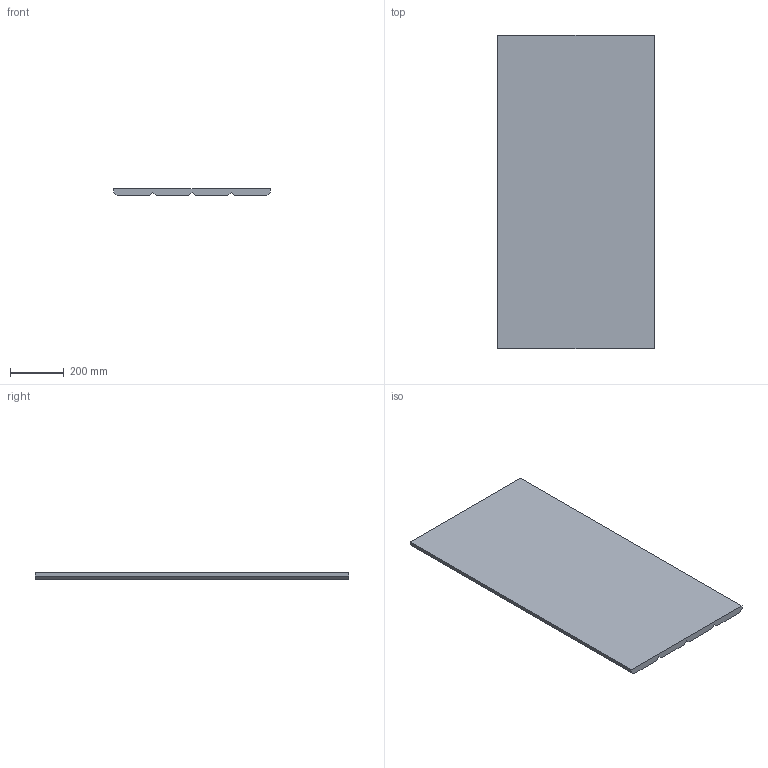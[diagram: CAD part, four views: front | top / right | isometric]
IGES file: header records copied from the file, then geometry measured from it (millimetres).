
Start section: SolidWorks IGES file using analytic representation for surfaces
Global section: file name: \\vmware-host\Shared Folders\Desktop\BAUX\vertical.IGS; native system: SolidWorks 2014; preprocessor: SolidWorks 2014; author: iMac 3; date: 150121.181633; units: millimetre
Bounding box: 580 x 1160 x 25 mm (x, y, z)
Surface area: 1450398.8 mm2 (no closed solid volume)
Topology: 0 solids, 0 shells, 17 faces, 90 edges, 90 vertices
Faces by surface type: bspline 17
